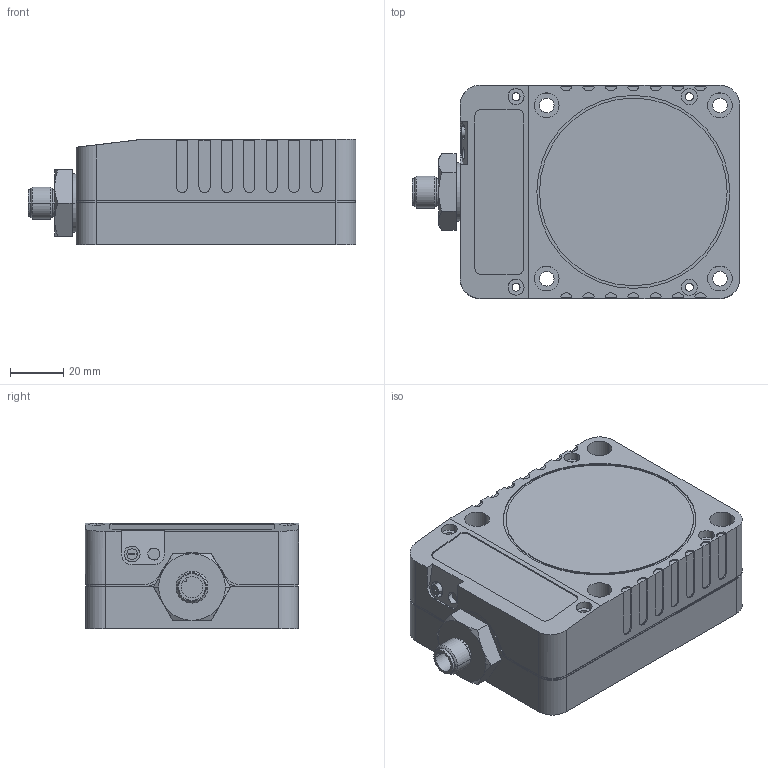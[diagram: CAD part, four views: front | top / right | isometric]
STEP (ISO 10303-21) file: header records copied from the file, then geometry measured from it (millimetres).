
FILE_DESCRIPTION( ( '' ), '1' );
FILE_NAME( '//partserver001.servicenet/client_exchange/iodir/jobs/output/wkb10613309_no0/STEP/id5046_2_03.stp', '2008-05-16T06:13:50', ( '' ), ( '' ), ' ', ' ', ' ' );
FILE_SCHEMA( ( 'CONFIG_CONTROL_DESIGN' ) );
Length unit declared in the file: millimetre
Products named in the file (1): 1
Bounding box: 123 x 80 x 39.7 mm (x, y, z)
Volume: 320184 mm3; surface area: 38848.8 mm2
Topology: 1 solids, 1 shells, 241 faces, 643 edges, 424 vertices
Faces by surface type: plane 119, cylinder 110, cone 12
Entity records: 7627 total; most frequent: DIRECTION 1353, CARTESIAN_POINT 1333, ORIENTED_EDGE 1286, EDGE_CURVE 643, AXIS2_PLACEMENT_3D 480, VERTEX_POINT 424, LINE 393, VECTOR 393
